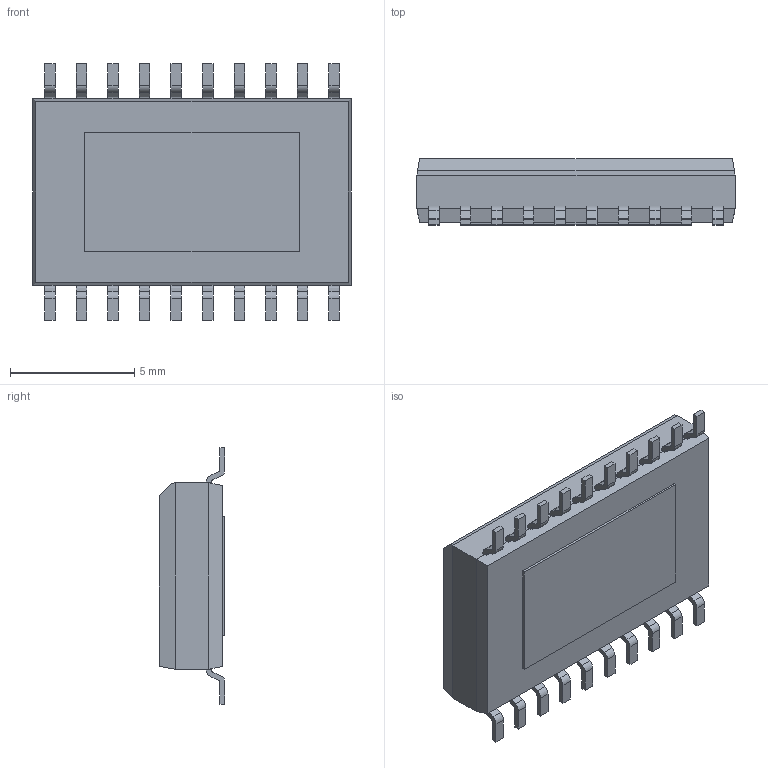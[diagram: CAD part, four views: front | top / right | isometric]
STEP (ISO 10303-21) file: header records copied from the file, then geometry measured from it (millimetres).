
FILE_DESCRIPTION (( 'STEP AP214' ), '1' );
FILE_NAME ( 'SOIC127P1032X265-21L87T480X861.STEP', '2014-04-11T12:31:21', ( '' ), ( '' ), 'FPX Expert 2013', 'PCB Libraries', '' );
FILE_SCHEMA (( 'AUTOMOTIVE_DESIGN' ));
Length unit declared in the file: millimetre
Products named in the file (1): SOIC127P1032X265-21L87T480X861
Bounding box: 12.8 x 2.65 x 10.32 mm (x, y, z)
Volume: 248.1 mm3; surface area: 425.8 mm2
Topology: 22 solids, 22 shells, 306 faces, 775 edges, 514 vertices
Faces by surface type: plane 226, cylinder 80
Entity records: 10265 total; most frequent: CARTESIAN_POINT 1596, ORIENTED_EDGE 1550, DIRECTION 1549, EDGE_CURVE 775, VECTOR 615, LINE 615, VERTEX_POINT 514, AXIS2_PLACEMENT_3D 467
